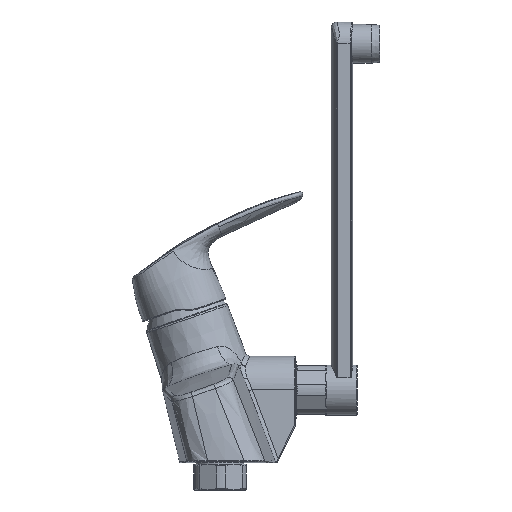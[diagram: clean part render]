
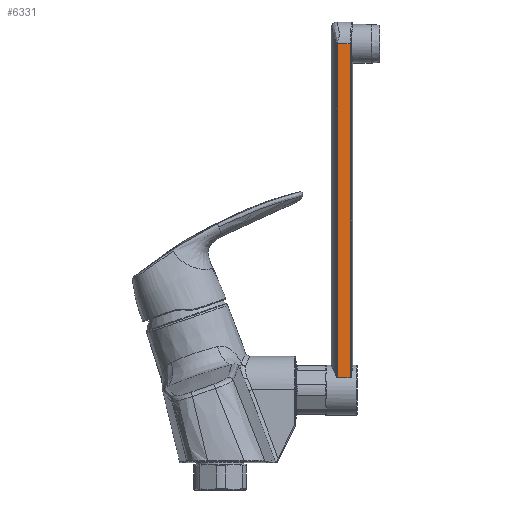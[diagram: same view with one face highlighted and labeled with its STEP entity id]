
A CAD part, left-side view. The second image highlights one B-rep face of the part: STEP entity #6331.
In plain terms, the highlighted planar face has unit normal (-1, 0, 0).
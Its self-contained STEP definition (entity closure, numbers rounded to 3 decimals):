
#378 = VERTEX_POINT ( 'NONE', #17530 ) ;
#816 = DIRECTION ( 'NONE',  ( 0., 1., 0. ) ) ;
#886 = VECTOR ( 'NONE', #1682, 1000. ) ;
#1682 = DIRECTION ( 'NONE',  ( 0., 1., 0. ) ) ;
#2340 = DIRECTION ( 'NONE',  ( 0., -1., 0. ) ) ;
#3726 = ORIENTED_EDGE ( 'NONE', *, *, #8469, .F. ) ;
#4052 = CARTESIAN_POINT ( 'NONE',  ( -12.793, 90.934, 258.8 ) ) ;
#4515 = ORIENTED_EDGE ( 'NONE', *, *, #5386, .T. ) ;
#4837 = ORIENTED_EDGE ( 'NONE', *, *, #17508, .F. ) ;
#5386 = EDGE_CURVE ( 'NONE', #7129, #19862, #16350, .T. ) ;
#5948 = DIRECTION ( 'NONE',  ( -1., 0., 0. ) ) ;
#6331 = ADVANCED_FACE ( 'NONE', ( #11761 ), #7392, .T. ) ;
#6667 = CARTESIAN_POINT ( 'NONE',  ( -12.793, -48.766, 65.037 ) ) ;
#6824 = LINE ( 'NONE', #6667, #886 ) ;
#7129 = VERTEX_POINT ( 'NONE', #17519 ) ;
#7392 = PLANE ( 'NONE',  #19514 ) ;
#7484 = CARTESIAN_POINT ( 'NONE',  ( -12.793, -68.388, 65.037 ) ) ;
#8469 = EDGE_CURVE ( 'NONE', #378, #19862, #6824, .T. ) ;
#8714 = VECTOR ( 'NONE', #2340, 1000. ) ;
#8916 = CARTESIAN_POINT ( 'NONE',  ( -12.793, -68.388, 129.625 ) ) ;
#9044 = CARTESIAN_POINT ( 'NONE',  ( -12.793, -67.969, 271.45 ) ) ;
#9436 = ORIENTED_EDGE ( 'NONE', *, *, #19992, .T. ) ;
#9523 = EDGE_LOOP ( 'NONE', ( #3726, #9436, #4837, #4515 ) ) ;
#11761 = FACE_OUTER_BOUND ( 'NONE', #9523, .T. ) ;
#12321 = CARTESIAN_POINT ( 'NONE',  ( -12.793, -68.388, 194.212 ) ) ;
#12756 = CARTESIAN_POINT ( 'NONE',  ( -12.793, -68.388, 65.037 ) ) ;
#13333 = DIRECTION ( 'NONE',  ( 0., 0., 1. ) ) ;
#16350 = B_SPLINE_CURVE_WITH_KNOTS ( 'NONE', 3,
 ( #17383, #12321, #8916, #7484 ),
 .UNSPECIFIED., .F., .F.,
 ( 4, 4 ),
 ( 0., 0.659 ),
 .UNSPECIFIED. ) ;
#16466 = VECTOR ( 'NONE', #13333, 1000. ) ;
#17383 = CARTESIAN_POINT ( 'NONE',  ( -12.793, -68.388, 258.8 ) ) ;
#17508 = EDGE_CURVE ( 'NONE', #7129, #17544, #21410, .T. ) ;
#17519 = CARTESIAN_POINT ( 'NONE',  ( -12.793, -68.388, 258.8 ) ) ;
#17530 = CARTESIAN_POINT ( 'NONE',  ( -12.793, -75.838, 65.037 ) ) ;
#17544 = VERTEX_POINT ( 'NONE', #20345 ) ;
#18038 = LINE ( 'NONE', #21436, #16466 ) ;
#19514 = AXIS2_PLACEMENT_3D ( 'NONE', #9044, #5948, #816 ) ;
#19862 = VERTEX_POINT ( 'NONE', #12756 ) ;
#19992 = EDGE_CURVE ( 'NONE', #378, #17544, #18038, .T. ) ;
#20345 = CARTESIAN_POINT ( 'NONE',  ( -12.793, -75.838, 258.8 ) ) ;
#21410 = LINE ( 'NONE', #4052, #8714 ) ;
#21436 = CARTESIAN_POINT ( 'NONE',  ( -12.793, -75.838, 271.45 ) ) ;
